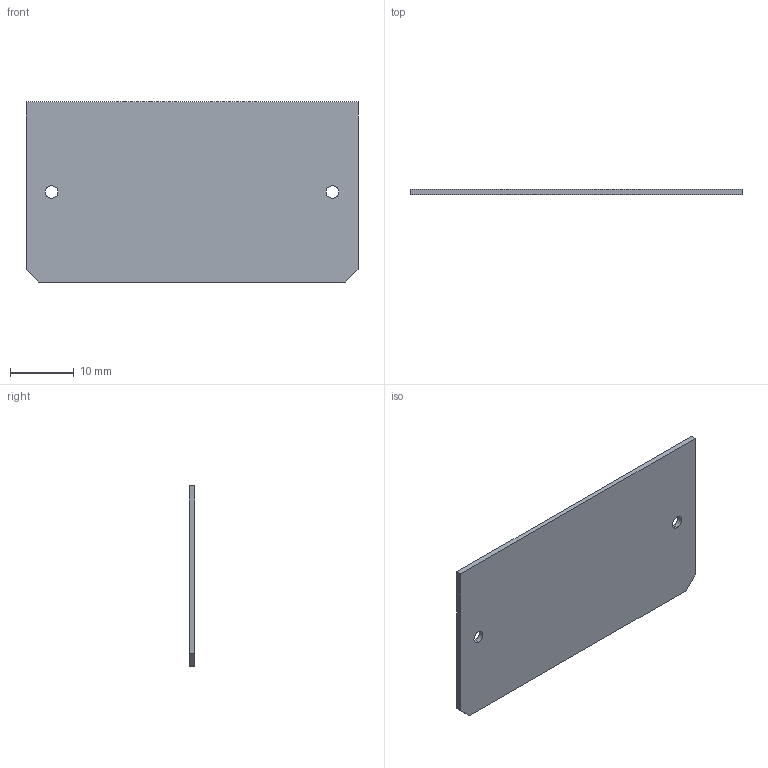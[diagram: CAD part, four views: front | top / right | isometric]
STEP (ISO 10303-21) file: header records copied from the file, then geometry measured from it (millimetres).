
FILE_DESCRIPTION (( 'STEP AP214' ), '1' );
FILE_NAME ('LBRX-00-040-6-POLARIZER-V.STEP', '2021-11-05T05:47:46', ( '' ), ( '' ), 'SwSTEP 2.0', 'SolidWorks 2021', '' );
FILE_SCHEMA (( 'AUTOMOTIVE_DESIGN' ));
Length unit declared in the file: millimetre
Products named in the file (1): LBRX-00-040-6-POLARIZER-V
Bounding box: 52 x 0.8 x 28.2 mm (x, y, z)
Volume: 1164.9 mm3; surface area: 3048.7 mm2
Topology: 1 solids, 1 shells, 12 faces, 30 edges, 20 vertices
Faces by surface type: plane 8, cylinder 4
Entity records: 404 total; most frequent: DIRECTION 64, CARTESIAN_POINT 63, ORIENTED_EDGE 60, EDGE_CURVE 30, LINE 22, VECTOR 22, AXIS2_PLACEMENT_3D 21, VERTEX_POINT 20
